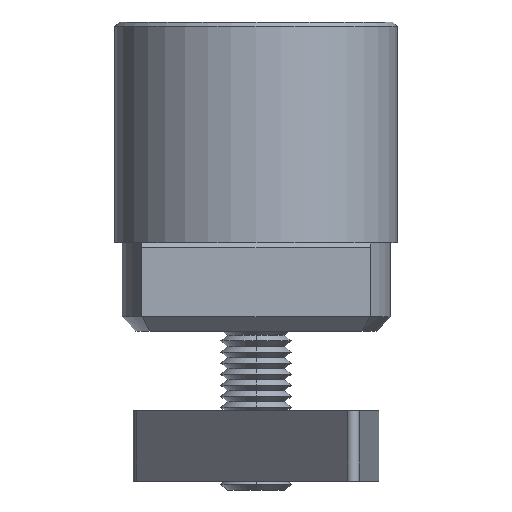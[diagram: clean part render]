
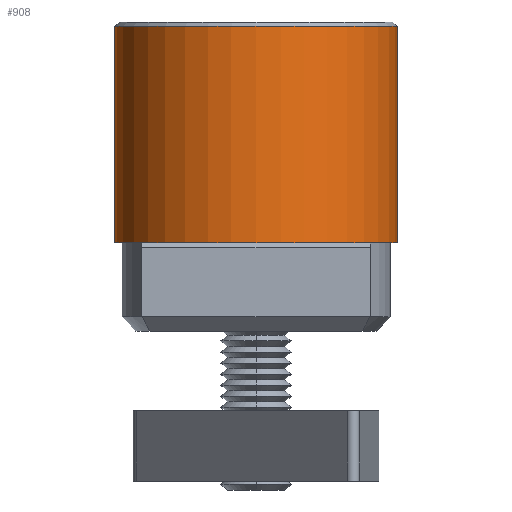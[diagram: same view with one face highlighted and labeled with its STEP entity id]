
A CAD part, front view. The second image highlights one B-rep face of the part: STEP entity #908.
In plain terms, the highlighted cylindrical face has radius 16 mm (diameter 32 mm), a partial arc.
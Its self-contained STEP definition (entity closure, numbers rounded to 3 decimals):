
#762 = VERTEX_POINT ( 'NONE', #2473 ) ;
#765 = VERTEX_POINT ( 'NONE', #2467 ) ;
#844 = EDGE_CURVE ( 'NONE', #762, #845, #2630, .T. ) ;
#845 = VERTEX_POINT ( 'NONE', #2626 ) ;
#848 = VERTEX_POINT ( 'NONE', #2620 ) ;
#850 = EDGE_CURVE ( 'NONE', #765, #848, #2619, .T. ) ;
#854 = EDGE_CURVE ( 'NONE', #848, #845, #2610, .T. ) ;
#884 = ORIENTED_EDGE ( 'NONE', *, *, #844, .F. ) ;
#885 = ORIENTED_EDGE ( 'NONE', *, *, #886, .T. ) ;
#886 = EDGE_CURVE ( 'NONE', #762, #765, #2729, .T. ) ;
#887 = ORIENTED_EDGE ( 'NONE', *, *, #850, .T. ) ;
#888 = ORIENTED_EDGE ( 'NONE', *, *, #854, .T. ) ;
#908 = ADVANCED_FACE ( 'NONE', ( #2749 ), #2748, .T. ) ;
#909 = EDGE_LOOP ( 'NONE', ( #884, #885, #887, #888 ) ) ;
#2467 = CARTESIAN_POINT ( 'NONE',  ( -16., 0., 24.5 ) ) ;
#2473 = CARTESIAN_POINT ( 'NONE',  ( 16., 0., 24.5 ) ) ;
#2610 = CIRCLE ( 'NONE', #2670, 16. ) ;
#2616 = DIRECTION ( 'NONE',  ( 0., 0., -1. ) ) ;
#2617 = VECTOR ( 'NONE', #2616, 1000. ) ;
#2618 = CARTESIAN_POINT ( 'NONE',  ( -16., 0., 25. ) ) ;
#2619 = LINE ( 'NONE', #2618, #2617 ) ;
#2620 = CARTESIAN_POINT ( 'NONE',  ( -16., 0., 0. ) ) ;
#2626 = CARTESIAN_POINT ( 'NONE',  ( 16., 0., 0. ) ) ;
#2627 = DIRECTION ( 'NONE',  ( 0., 0., -1. ) ) ;
#2628 = VECTOR ( 'NONE', #2627, 1000. ) ;
#2629 = CARTESIAN_POINT ( 'NONE',  ( 16., 0., 25. ) ) ;
#2630 = LINE ( 'NONE', #2629, #2628 ) ;
#2667 = DIRECTION ( 'NONE',  ( 1., 0., 0. ) ) ;
#2668 = DIRECTION ( 'NONE',  ( 0., 0., 1. ) ) ;
#2669 = CARTESIAN_POINT ( 'NONE',  ( 0., 0., 0. ) ) ;
#2670 = AXIS2_PLACEMENT_3D ( 'NONE', #2669, #2668, #2667 ) ;
#2725 = DIRECTION ( 'NONE',  ( 1., 0., 0. ) ) ;
#2726 = DIRECTION ( 'NONE',  ( 0., 0., -1. ) ) ;
#2727 = CARTESIAN_POINT ( 'NONE',  ( 0., 0., 24.5 ) ) ;
#2728 = AXIS2_PLACEMENT_3D ( 'NONE', #2727, #2726, #2725 ) ;
#2729 = CIRCLE ( 'NONE', #2728, 16. ) ;
#2744 = DIRECTION ( 'NONE',  ( -1., 0., 0. ) ) ;
#2745 = DIRECTION ( 'NONE',  ( 0., 0., -1. ) ) ;
#2746 = AXIS2_PLACEMENT_3D ( 'NONE', #2747, #2745, #2744 ) ;
#2747 = CARTESIAN_POINT ( 'NONE',  ( 0., 0., 25. ) ) ;
#2748 = CYLINDRICAL_SURFACE ( 'NONE', #2746, 16. ) ;
#2749 = FACE_OUTER_BOUND ( 'NONE', #909, .T. ) ;
